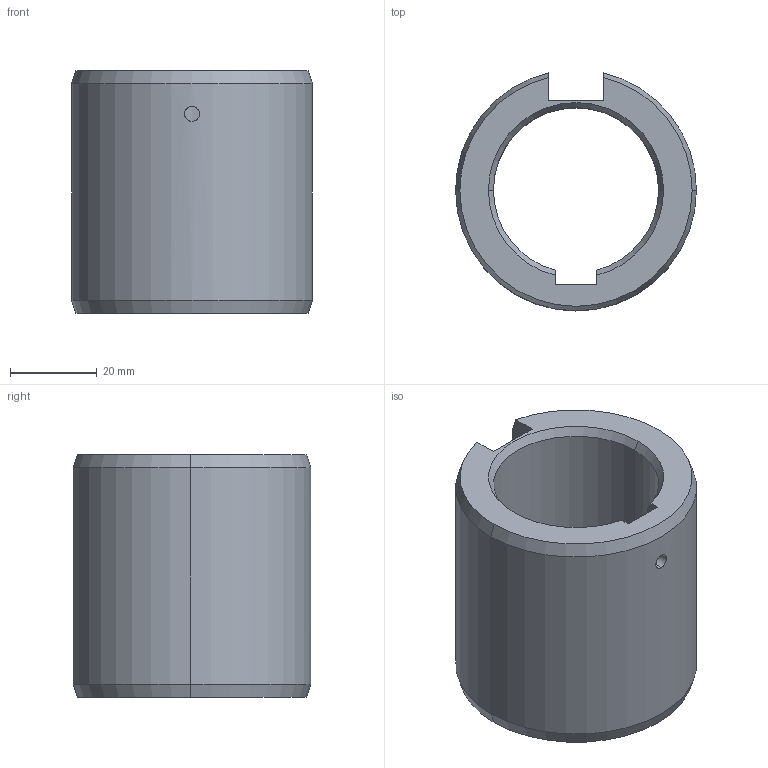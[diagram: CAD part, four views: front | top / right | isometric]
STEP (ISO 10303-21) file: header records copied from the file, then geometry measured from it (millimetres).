
FILE_DESCRIPTION (( 'STEP AP203' ), '1' );
FILE_NAME ('KBSH083P24.STEP', '2023-08-01T05:26:37', ( '' ), ( '' ), 'SwSTEP 2.0', 'SolidWorks 2017', '' );
FILE_SCHEMA (( 'CONFIG_CONTROL_DESIGN' ));
Length unit declared in the file: millimetre
Products named in the file (1): KBSH083P24
Bounding box: 55.56 x 54.83 x 56 mm (x, y, z)
Volume: 64730.8 mm3; surface area: 19460.3 mm2
Topology: 1 solids, 1 shells, 28 faces, 70 edges, 44 vertices
Faces by surface type: cone 12, cylinder 8, plane 8
Entity records: 977 total; most frequent: CARTESIAN_POINT 219, DIRECTION 144, ORIENTED_EDGE 140, EDGE_CURVE 70, AXIS2_PLACEMENT_3D 55, VERTEX_POINT 44, VECTOR 34, LINE 34
